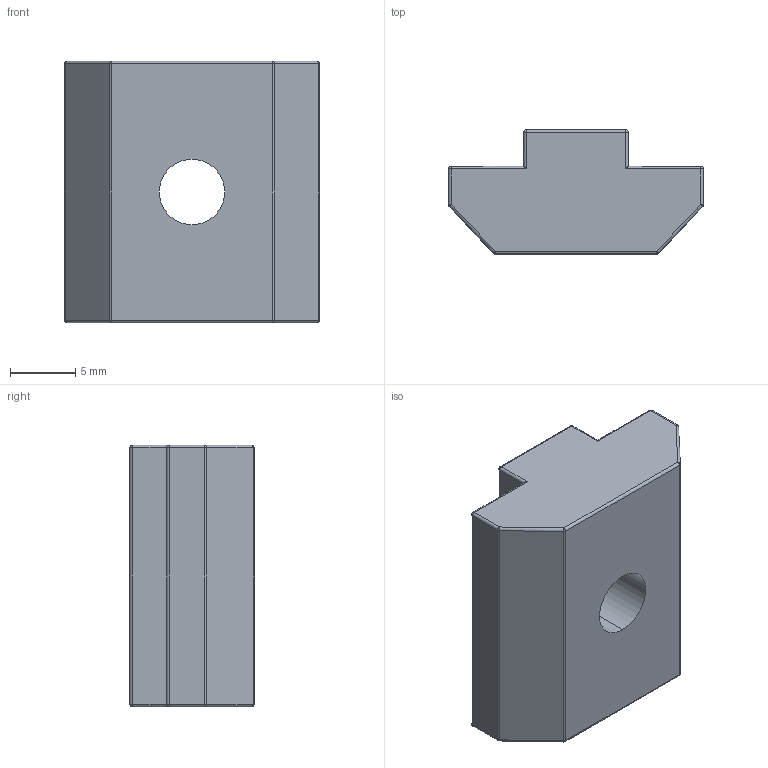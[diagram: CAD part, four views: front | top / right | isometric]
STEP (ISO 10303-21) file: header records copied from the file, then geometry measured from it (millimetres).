
FILE_DESCRIPTION (( 'STEP AP203' ), '1' );
FILE_NAME ('SLN6-84040.STEP', '2018-03-15T12:20:34', ( '' ), ( '' ), 'SwSTEP 2.0', 'SolidWorks 2013', '' );
FILE_SCHEMA (( 'CONFIG_CONTROL_DESIGN' ));
Length unit declared in the file: millimetre
Products named in the file (1): SLN6-84040
Bounding box: 19.5 x 9.5 x 20 mm (x, y, z)
Volume: 2613.8 mm3; surface area: 1449 mm2
Topology: 1 solids, 1 shells, 58 faces, 128 edges, 60 vertices
Faces by surface type: cylinder 30, sphere 16, plane 12
Entity records: 1537 total; most frequent: DIRECTION 282, CARTESIAN_POINT 247, ORIENTED_EDGE 232, EDGE_CURVE 116, AXIS2_PLACEMENT_3D 111, LINE 60, EDGE_LOOP 60, VECTOR 60
